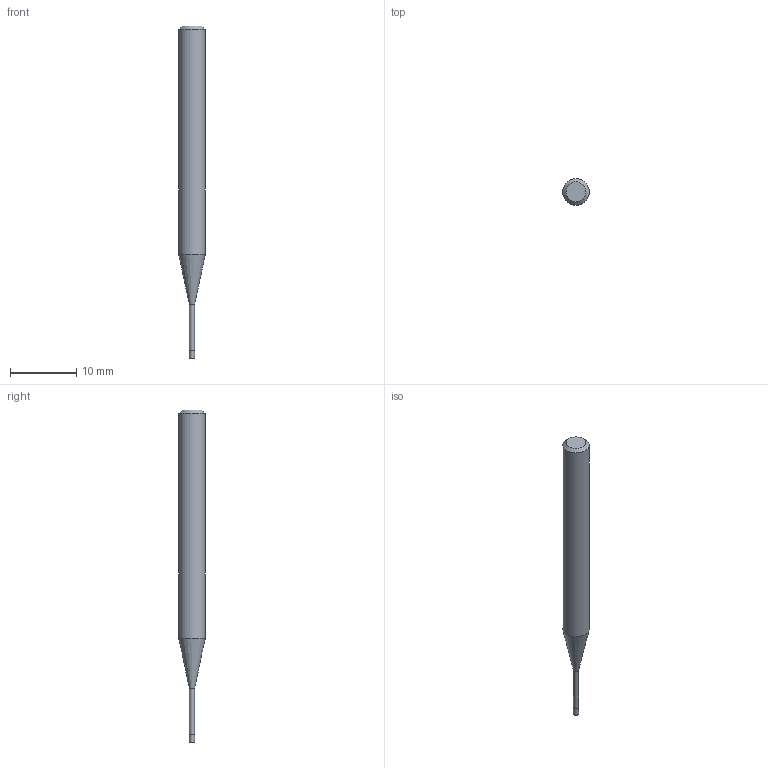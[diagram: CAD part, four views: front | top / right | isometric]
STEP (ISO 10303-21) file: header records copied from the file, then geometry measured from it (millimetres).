
FILE_DESCRIPTION((''),'2;1');
FILE_NAME('C:\Users\nsx150\AppData\Local\Temp\Mastercam 2021\17T8Q8S9EB\TEMP.step','2021-04-21T14:25:19',(''),(''),'STEP Write','Mastercam 2021 ... CNC Software, Inc.','');
FILE_SCHEMA(('AUTOMOTIVE_DESIGN'));
Length unit declared in the file: millimetre
Products named in the file (1): None
Bounding box: 4 x 4 x 50 mm (x, y, z)
Volume: 473.4 mm3; surface area: 519.5 mm2
Topology: 2 solids, 2 shells, 9 faces, 12 edges, 7 vertices
Faces by surface type: plane 4, cylinder 3, cone 2
Full cylindrical faces by diameter (mm): 0.76 x1, 0.8 x1, 4 x1
Entity records: 211 total; most frequent: DIRECTION 36, CARTESIAN_POINT 25, AXIS2_PLACEMENT_3D 18, ORIENTED_EDGE 14, EDGE_LOOP 14, STYLED_ITEM 12, ADVANCED_FACE 9, FACE_BOUND 8
